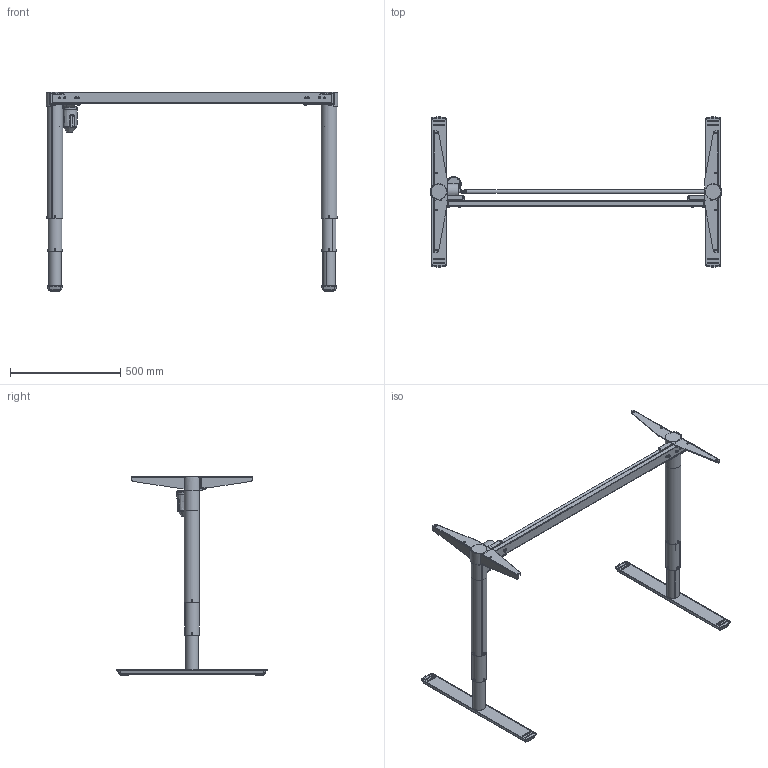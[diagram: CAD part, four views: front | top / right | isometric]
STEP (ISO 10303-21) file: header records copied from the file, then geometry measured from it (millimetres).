
FILE_DESCRIPTION (( 'STEP AP203' ), '1' );
FILE_NAME ('Tech-draw_501-49_XX129.STEP', '2019-09-25T06:54:22', ( '' ), ( '' ), 'SwSTEP 2.0', 'SolidWorks 2018', '' );
FILE_SCHEMA (( 'CONFIG_CONTROL_DESIGN' ));
Length unit declared in the file: millimetre
Products named in the file (35): 139080_silver1; 344150_shell view; 138160_silver1; Tech-draw_501-49_XX129; 332570; 144260_129; 343600; 324520_silver; 344170; 138090_silver; 138860_shell view; 138120_silver1; 343610_shell view; 340760; 346600; 138150_silver; 352590; 344430_silver; 138140_silver1; 138100_silver1; 341220; 347920_129; 344210; 332560; 344290_shell view; 138110_silver; 148950_501-49 XS129; 344180; 340560; 344630._›72silver; 344300; 347910_129; 344630._›65silver; 344220_shell view; 138130_silver
Assembly tree (62 placements, depth 6):
  Tech-draw_501-49_XX129
    148950_501-49 XS129
      347910_129
      144260_129
        347920_129
        340560
        341220
      138090_silver
        138100_silver1
          343600
          344170
          138860_shell view
            344150_shell view
            332560
          346600
        138110_silver
          138120_silver1
            343610_shell view
            344210
            344220_shell view
          139080_silver1
            344290_shell view
          344630._›65silver  x4
        324520_silver  x2
        344430_silver
        344630._›72silver  x4
        352590
      138130_silver
        138140_silver1
          344300
          138860_shell view
            344150_shell view
            332560
          344180
        138150_silver
          138160_silver1
            343610_shell view
            344210
            344220_shell view
          139080_silver1
            344290_shell view
          344630._›65silver  x4
        324520_silver  x2
        344630._›72silver  x4
      340760  x4
      332570  x4
Bounding box: 1321.5 x 679.46 x 902.5 mm (x, y, z)
Volume: 2498239.2 mm3; surface area: 2633536.2 mm2
Topology: 51 solids, 51 shells, 4836 faces, 12022 edges, 7257 vertices
Faces by surface type: plane 1686, cylinder 1650, bspline 648, torus 439, sphere 256, cone 157
Full cylindrical faces by diameter (mm): 2.8 x4, 3 x2, 4.6 x4, 5 x4, 6 x10, 7 x8, 7.6 x4, 8 x12, 9 x4, 10 x8, 11.9 x2, 12 x1, 13 x2, 15 x4, 16 x2, 18 x1, 20 x1, 37.6 x8, 58 x2, 58.35 x2, 60 x1, 65 x2, 66.6 x1, 72 x2
Entity records: 81129 total; most frequent: CARTESIAN_POINT 34428, ORIENTED_EDGE 9022, DIRECTION 8574, EDGE_CURVE 4511, AXIS2_PLACEMENT_3D 3316, VERTEX_POINT 2878, EDGE_LOOP 2073, LINE 1942
